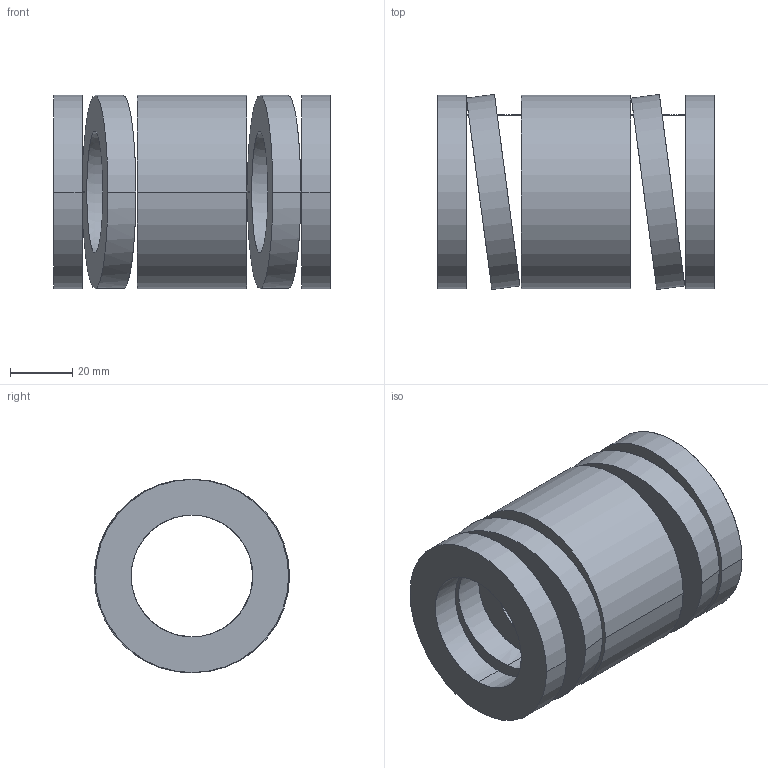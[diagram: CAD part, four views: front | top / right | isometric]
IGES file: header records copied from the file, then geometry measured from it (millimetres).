
Start section: START RECORD GO HERE.
Global section: file name: 392-B63-089.igs; native system: DASSAULT SYSTEMES CATIA V5 R20 - www.3ds.com; preprocessor: CATIA Version 5 Release 20 ; author: Utente; organization: NB04-ASUS; date: 20210813.140104; units: millimetre
Bounding box: 89 x 62.86 x 62.2 mm (x, y, z)
Surface area: 41177.3 mm2 (no closed solid volume)
Topology: 0 solids, 0 shells, 38 faces, 184 edges, 184 vertices
Faces by surface type: revolution 28, plane 10
